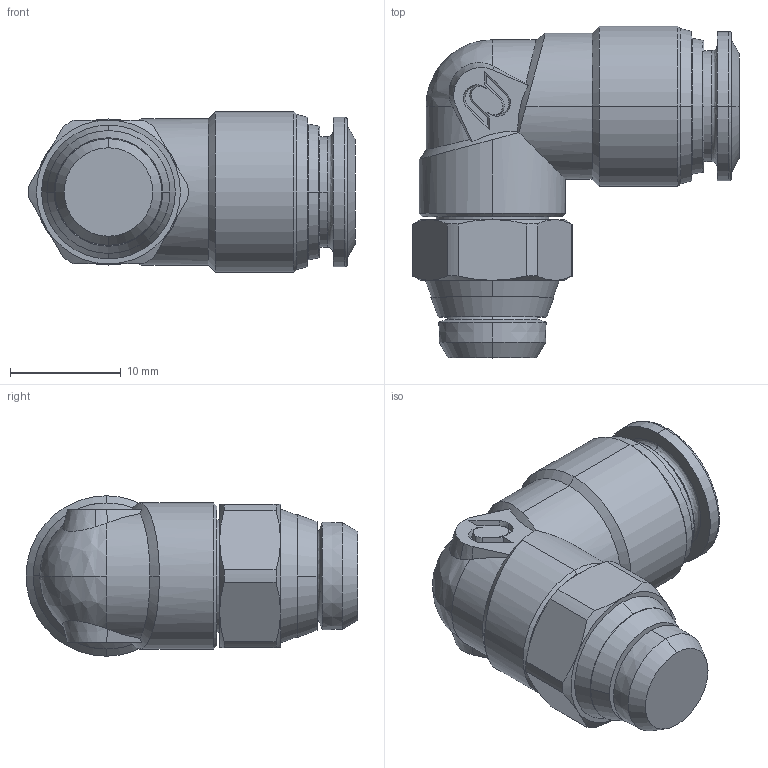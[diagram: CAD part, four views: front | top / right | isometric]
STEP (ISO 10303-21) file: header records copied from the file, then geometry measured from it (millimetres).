
FILE_DESCRIPTION (( 'STEP AP214' ), '1' );
FILE_NAME ('8911100008A.STEP', '2019-03-28T09:06:34', ( 'AIGNEP' ), ( 'Hewlett-Packard Company' ), 'SwSTEP 2.0', 'SolidWorks 2016', '' );
FILE_SCHEMA (( 'AUTOMOTIVE_DESIGN' ));
Length unit declared in the file: millimetre
Products named in the file (1): 8911100008A
Bounding box: 29.5 x 30 x 14.5 mm (x, y, z)
Volume: 5669.7 mm3; surface area: 2286.4 mm2
Topology: 1 solids, 1 shells, 124 faces, 297 edges, 186 vertices
Faces by surface type: cone 51, plane 39, cylinder 20, bspline 14
Entity records: 5020 total; most frequent: CARTESIAN_POINT 1555, ORIENTED_EDGE 590, DIRECTION 549, EDGE_CURVE 295, AXIS2_PLACEMENT_3D 223, VERTEX_POINT 186, EDGE_LOOP 137, ADVANCED_FACE 124
